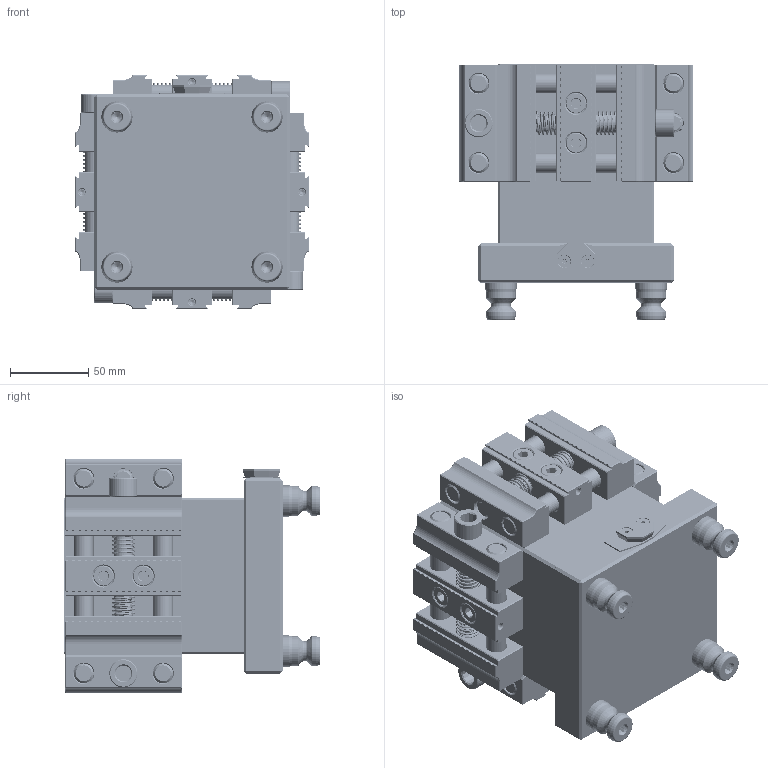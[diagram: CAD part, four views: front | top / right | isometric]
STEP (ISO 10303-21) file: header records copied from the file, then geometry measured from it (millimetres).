
FILE_DESCRIPTION (( 'STEP AP203' ), '1' );
FILE_NAME ('A96-PV3XT4-4B.STEP', '2022-02-09T20:40:47', ( '' ), ( '' ), 'SwSTEP 2.0', 'SolidWorks 2021', '' );
FILE_SCHEMA (( 'CONFIG_CONTROL_DESIGN' ));
Length unit declared in the file: inch
Products named in the file (20): PV3X-2B_FINISHED PART; 91595A100_METRIC ALLOY STEEL DOWEL PIN_91595A100; M10X25.CPSS_91390A162; AS-TP; AS-S; 91263A829_ZINC-PLATED ALLOY STEEL HEX DRIVE FLAT HEAD SCREW_91263A829; AS-C; PS20F; A96-PV3XT4-1; PV3X-3B_FINISHED PART; LC045H10M_1.16374803; M12X080.SHCS_91290A646; 0500X4000.DP_0500X4000.DP; M12X100.SHCS_91290A646; PS20F-1_HARD TURN; M06X010.DP_91595A438; A96-PV3XT4-4B; M8X025_91290A432; PV3X-4B_BOM; PV3X-1_FINISHED PART 
Assembly tree (31 placements, depth 3):
  A96-PV3XT4-4B
    A96-PV3XT4-1
    AS-TP
      AS-C
      AS-S
      91263A829_ZINC-PLATED ALLOY STEEL HEX DRIVE FLAT HEAD SCREW_91263A829  x2
      91595A100_METRIC ALLOY STEEL DOWEL PIN_91595A100  x2
    PV3X-4B_BOM  x4
      PV3X-1_FINISHED PART 
      PV3X-2B_FINISHED PART
      PV3X-3B_FINISHED PART
      0500X4000.DP_0500X4000.DP
      M12X080.SHCS_91290A646
      M12X100.SHCS_91290A646
      LC045H10M_1.16374803
      M8X025_91290A432
      M06X010.DP_91595A438
    PS20F  x4
      PS20F-1_HARD TURN
      M10X25.CPSS_91390A162
Bounding box: 149.99 x 164 x 149.99 mm (x, y, z)
Volume: 2156680.2 mm3; surface area: 360181.6 mm2
Topology: 67 solids, 67 shells, 4361 faces, 11276 edges, 7094 vertices
Faces by surface type: cylinder 2010, plane 1443, cone 708, torus 88, bspline 72, sphere 40
Entity records: 55064 total; most frequent: CARTESIAN_POINT 25805, ORIENTED_EDGE 6064, DIRECTION 5225, EDGE_CURVE 3032, VERTEX_POINT 1920, AXIS2_PLACEMENT_3D 1899, VECTOR 1427, LINE 1427
